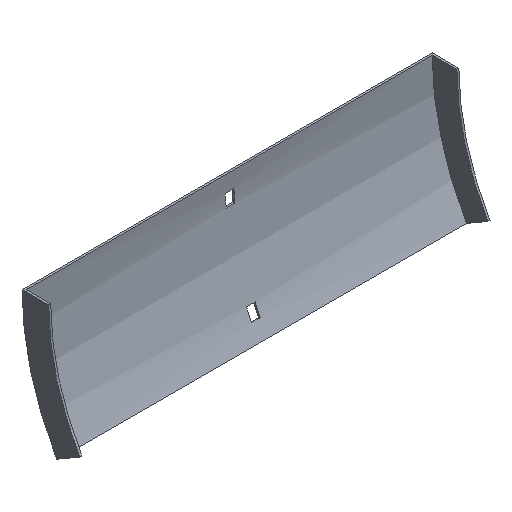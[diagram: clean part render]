
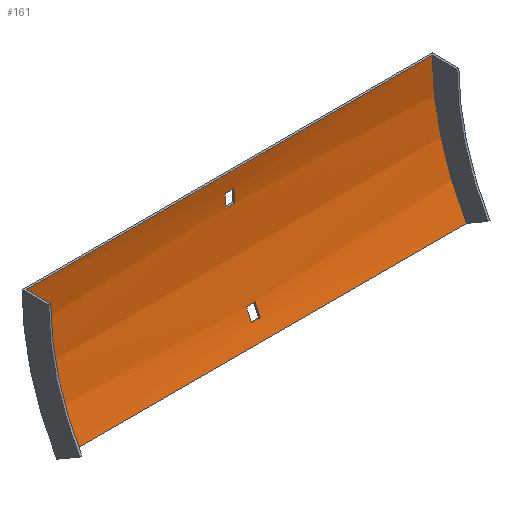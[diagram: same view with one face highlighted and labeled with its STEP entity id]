
A CAD part, isometric view. The second image highlights one B-rep face of the part: STEP entity #161.
In plain terms, the highlighted cylindrical face has radius 192.5 mm (diameter 385 mm), a partial arc.
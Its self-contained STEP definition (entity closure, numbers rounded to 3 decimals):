
#5 = AXIS2_PLACEMENT_3D ( 'NONE', #118, #268, #513 ) ;
#6 = CARTESIAN_POINT ( 'NONE',  ( -3.25, -194., 0. ) ) ;
#19 = DIRECTION ( 'NONE',  ( 1., 0., 0. ) ) ;
#21 = CARTESIAN_POINT ( 'NONE',  ( 3.25, -194., 0. ) ) ;
#34 = VERTEX_POINT ( 'NONE', #108 ) ;
#37 = LINE ( 'NONE', #558, #443 ) ;
#48 = DIRECTION ( 'NONE',  ( -1., 0., 0. ) ) ;
#49 = VERTEX_POINT ( 'NONE', #58 ) ;
#56 = FACE_OUTER_BOUND ( 'NONE', #82, .T. ) ;
#58 = CARTESIAN_POINT ( 'NONE',  ( 152., -1.5, 0. ) ) ;
#62 = VECTOR ( 'NONE', #571, 1000. ) ;
#68 = VECTOR ( 'NONE', #313, 1000. ) ;
#70 = VERTEX_POINT ( 'NONE', #86 ) ;
#73 = CIRCLE ( 'NONE', #5, 192.5 ) ;
#76 = EDGE_CURVE ( 'NONE', #270, #49, #93, .T. ) ;
#78 = CARTESIAN_POINT ( 'NONE',  ( -3.25, -17.785, -77.489 ) ) ;
#79 = CARTESIAN_POINT ( 'NONE',  ( 3.25, -1.874, -12. ) ) ;
#82 = EDGE_LOOP ( 'NONE', ( #362, #467, #388, #89 ) ) ;
#86 = CARTESIAN_POINT ( 'NONE',  ( 3.25, -21.614, -85.671 ) ) ;
#89 = ORIENTED_EDGE ( 'NONE', *, *, #489, .T. ) ;
#93 = CIRCLE ( 'NONE', #186, 192.5 ) ;
#99 = EDGE_LOOP ( 'NONE', ( #438, #567, #518, #496 ) ) ;
#100 = DIRECTION ( 'NONE',  ( -1., 0., 0. ) ) ;
#103 = EDGE_CURVE ( 'NONE', #329, #70, #599, .T. ) ;
#108 = CARTESIAN_POINT ( 'NONE',  ( -152., -27.29, -96.25 ) ) ;
#109 = EDGE_CURVE ( 'NONE', #285, #297, #37, .T. ) ;
#118 = CARTESIAN_POINT ( 'NONE',  ( -3.25, -194., 0. ) ) ;
#123 = CIRCLE ( 'NONE', #433, 192.5 ) ;
#133 = DIRECTION ( 'NONE',  ( 1., 0., 0. ) ) ;
#139 = ORIENTED_EDGE ( 'NONE', *, *, #454, .T. ) ;
#145 = ORIENTED_EDGE ( 'NONE', *, *, #565, .T. ) ;
#161 = ADVANCED_FACE ( 'NONE', ( #338, #56, #244 ), #520, .F. ) ;
#171 = LINE ( 'NONE', #584, #68 ) ;
#176 = CARTESIAN_POINT ( 'NONE',  ( 3.25, -17.785, -77.489 ) ) ;
#186 = AXIS2_PLACEMENT_3D ( 'NONE', #514, #554, #472 ) ;
#196 = CARTESIAN_POINT ( 'NONE',  ( 153.5, -21.614, -85.671 ) ) ;
#203 = CIRCLE ( 'NONE', #299, 192.5 ) ;
#210 = EDGE_CURVE ( 'NONE', #297, #389, #123, .T. ) ;
#212 = DIRECTION ( 'NONE',  ( 1., 0., 0. ) ) ;
#229 = VERTEX_POINT ( 'NONE', #253 ) ;
#231 = CARTESIAN_POINT ( 'NONE',  ( 152., -1.5, 0. ) ) ;
#234 = EDGE_CURVE ( 'NONE', #34, #562, #249, .T. ) ;
#244 = FACE_BOUND ( 'NONE', #447, .T. ) ;
#249 = CIRCLE ( 'NONE', #601, 192.5 ) ;
#253 = CARTESIAN_POINT ( 'NONE',  ( -3.25, -1.874, -12. ) ) ;
#262 = CARTESIAN_POINT ( 'NONE',  ( -152., -1.5, 0. ) ) ;
#263 = CARTESIAN_POINT ( 'NONE',  ( 153.5, -17.785, -77.489 ) ) ;
#265 = AXIS2_PLACEMENT_3D ( 'NONE', #295, #100, #390 ) ;
#266 = VECTOR ( 'NONE', #48, 1000. ) ;
#268 = DIRECTION ( 'NONE',  ( -1., 0., 0. ) ) ;
#270 = VERTEX_POINT ( 'NONE', #348 ) ;
#271 = DIRECTION ( 'NONE',  ( -1., 0., 0. ) ) ;
#277 = DIRECTION ( 'NONE',  ( 0., 0., 1. ) ) ;
#285 = VERTEX_POINT ( 'NONE', #446 ) ;
#295 = CARTESIAN_POINT ( 'NONE',  ( 153.5, -194., 0. ) ) ;
#297 = VERTEX_POINT ( 'NONE', #364 ) ;
#299 = AXIS2_PLACEMENT_3D ( 'NONE', #6, #212, #544 ) ;
#307 = VECTOR ( 'NONE', #548, 1000. ) ;
#308 = VERTEX_POINT ( 'NONE', #78 ) ;
#313 = DIRECTION ( 'NONE',  ( -1., 0., 0. ) ) ;
#319 = ORIENTED_EDGE ( 'NONE', *, *, #342, .T. ) ;
#328 = LINE ( 'NONE', #196, #540 ) ;
#329 = VERTEX_POINT ( 'NONE', #176 ) ;
#335 = DIRECTION ( 'NONE',  ( 1., 0., 0. ) ) ;
#338 = FACE_BOUND ( 'NONE', #99, .T. ) ;
#339 = AXIS2_PLACEMENT_3D ( 'NONE', #591, #271, #277 ) ;
#342 = EDGE_CURVE ( 'NONE', #308, #329, #586, .T. ) ;
#348 = CARTESIAN_POINT ( 'NONE',  ( 152., -27.29, -96.25 ) ) ;
#362 = ORIENTED_EDGE ( 'NONE', *, *, #234, .F. ) ;
#364 = CARTESIAN_POINT ( 'NONE',  ( 3.25, -2.649, -21. ) ) ;
#383 = CARTESIAN_POINT ( 'NONE',  ( 153.5, -1.874, -12. ) ) ;
#388 = ORIENTED_EDGE ( 'NONE', *, *, #76, .T. ) ;
#389 = VERTEX_POINT ( 'NONE', #79 ) ;
#390 = DIRECTION ( 'NONE',  ( 0., 0., 1. ) ) ;
#418 = LINE ( 'NONE', #231, #62 ) ;
#432 = DIRECTION ( 'NONE',  ( 0., 0., -1. ) ) ;
#433 = AXIS2_PLACEMENT_3D ( 'NONE', #21, #335, #432 ) ;
#438 = ORIENTED_EDGE ( 'NONE', *, *, #581, .F. ) ;
#440 = CARTESIAN_POINT ( 'NONE',  ( -152., -194., 0. ) ) ;
#443 = VECTOR ( 'NONE', #133, 1000. ) ;
#446 = CARTESIAN_POINT ( 'NONE',  ( -3.25, -2.649, -21. ) ) ;
#447 = EDGE_LOOP ( 'NONE', ( #139, #145, #319, #579 ) ) ;
#454 = EDGE_CURVE ( 'NONE', #70, #531, #328, .T. ) ;
#467 = ORIENTED_EDGE ( 'NONE', *, *, #547, .F. ) ;
#472 = DIRECTION ( 'NONE',  ( 0., 0., 1. ) ) ;
#484 = DIRECTION ( 'NONE',  ( 0., 0., 1. ) ) ;
#489 = EDGE_CURVE ( 'NONE', #49, #562, #418, .T. ) ;
#496 = ORIENTED_EDGE ( 'NONE', *, *, #109, .F. ) ;
#507 = DIRECTION ( 'NONE',  ( -1., 0., 0. ) ) ;
#513 = DIRECTION ( 'NONE',  ( 0., 0., 1. ) ) ;
#514 = CARTESIAN_POINT ( 'NONE',  ( 152., -194., 0. ) ) ;
#518 = ORIENTED_EDGE ( 'NONE', *, *, #210, .F. ) ;
#520 = CYLINDRICAL_SURFACE ( 'NONE', #265, 192.5 ) ;
#530 = EDGE_CURVE ( 'NONE', #389, #229, #605, .T. ) ;
#531 = VERTEX_POINT ( 'NONE', #568 ) ;
#540 = VECTOR ( 'NONE', #507, 1000. ) ;
#544 = DIRECTION ( 'NONE',  ( 0., 0., -1. ) ) ;
#547 = EDGE_CURVE ( 'NONE', #270, #34, #171, .T. ) ;
#548 = DIRECTION ( 'NONE',  ( 1., 0., 0. ) ) ;
#554 = DIRECTION ( 'NONE',  ( 1., 0., 0. ) ) ;
#558 = CARTESIAN_POINT ( 'NONE',  ( 153.5, -2.649, -21. ) ) ;
#562 = VERTEX_POINT ( 'NONE', #262 ) ;
#565 = EDGE_CURVE ( 'NONE', #531, #308, #203, .T. ) ;
#567 = ORIENTED_EDGE ( 'NONE', *, *, #530, .F. ) ;
#568 = CARTESIAN_POINT ( 'NONE',  ( -3.25, -21.614, -85.671 ) ) ;
#571 = DIRECTION ( 'NONE',  ( -1., 0., 0. ) ) ;
#579 = ORIENTED_EDGE ( 'NONE', *, *, #103, .T. ) ;
#581 = EDGE_CURVE ( 'NONE', #229, #285, #73, .T. ) ;
#584 = CARTESIAN_POINT ( 'NONE',  ( 152., -27.29, -96.25 ) ) ;
#586 = LINE ( 'NONE', #263, #307 ) ;
#591 = CARTESIAN_POINT ( 'NONE',  ( 3.25, -194., 0. ) ) ;
#599 = CIRCLE ( 'NONE', #339, 192.5 ) ;
#601 = AXIS2_PLACEMENT_3D ( 'NONE', #440, #19, #484 ) ;
#605 = LINE ( 'NONE', #383, #266 ) ;
